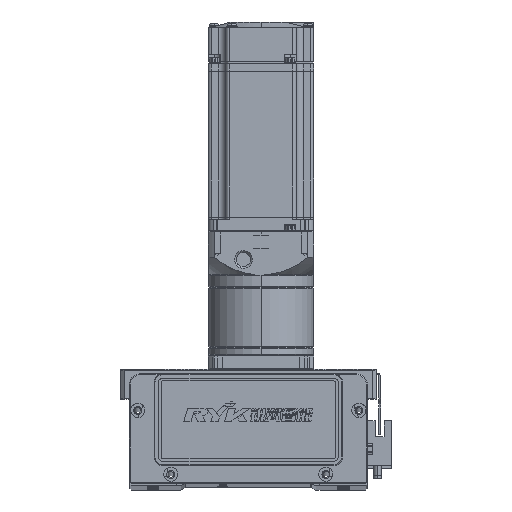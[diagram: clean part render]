
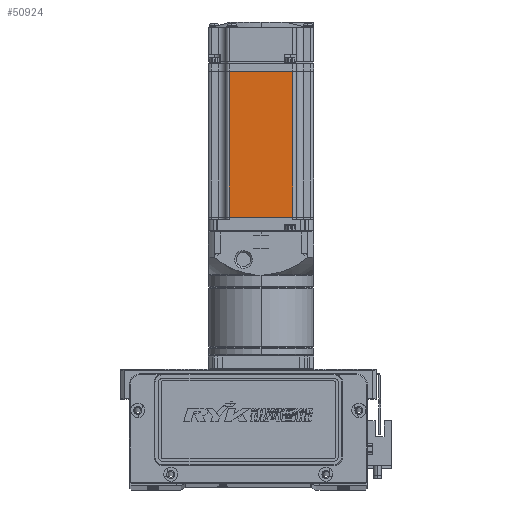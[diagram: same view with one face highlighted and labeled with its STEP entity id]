
A CAD part, top view. The second image highlights one B-rep face of the part: STEP entity #50924.
In plain terms, the highlighted planar face has unit normal (0, 0, 1).
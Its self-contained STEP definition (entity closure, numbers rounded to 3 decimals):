
#331 = VERTEX_POINT ( 'NONE', #10475 ) ;
#1261 = LINE ( 'NONE', #28120, #61692 ) ;
#4362 = AXIS2_PLACEMENT_3D ( 'NONE', #60997, #26026, #66859 ) ;
#9324 = DIRECTION ( 'NONE',  ( -1., 0., 0. ) ) ;
#9991 = DIRECTION ( 'NONE',  ( -1., 0., 0. ) ) ;
#10475 = CARTESIAN_POINT ( 'NONE',  ( -90.45, 18., 30. ) ) ;
#15568 = ORIENTED_EDGE ( 'NONE', *, *, #53115, .T. ) ;
#17392 = LINE ( 'NONE', #44203, #42946 ) ;
#25118 = CARTESIAN_POINT ( 'NONE',  ( -7.75, -18., 30. ) ) ;
#25939 = CARTESIAN_POINT ( 'NONE',  ( -90.45, -18., 30. ) ) ;
#26026 = DIRECTION ( 'NONE',  ( 0., 0., 1. ) ) ;
#26822 = LINE ( 'NONE', #55532, #33263 ) ;
#28120 = CARTESIAN_POINT ( 'NONE',  ( -6.5, -18., 30. ) ) ;
#33263 = VECTOR ( 'NONE', #9324, 1000. ) ;
#33961 = CARTESIAN_POINT ( 'NONE',  ( -7.75, 18., 30. ) ) ;
#35091 = LINE ( 'NONE', #48576, #72509 ) ;
#36220 = DIRECTION ( 'NONE',  ( 0., -1., 0. ) ) ;
#37587 = FACE_OUTER_BOUND ( 'NONE', #74146, .T. ) ;
#37645 = ORIENTED_EDGE ( 'NONE', *, *, #57790, .T. ) ;
#37784 = PLANE ( 'NONE',  #4362 ) ;
#38868 = DIRECTION ( 'NONE',  ( 0., -1., 0. ) ) ;
#42946 = VECTOR ( 'NONE', #38868, 1000. ) ;
#44203 = CARTESIAN_POINT ( 'NONE',  ( -90.45, 0., 30. ) ) ;
#48576 = CARTESIAN_POINT ( 'NONE',  ( -7.75, 0., 30. ) ) ;
#50924 = ADVANCED_FACE ( 'NONE', ( #37587 ), #37784, .T. ) ;
#51447 = VERTEX_POINT ( 'NONE', #25939 ) ;
#53115 = EDGE_CURVE ( 'NONE', #331, #51447, #17392, .T. ) ;
#55317 = VERTEX_POINT ( 'NONE', #33961 ) ;
#55532 = CARTESIAN_POINT ( 'NONE',  ( -6.5, 18., 30. ) ) ;
#56314 = ORIENTED_EDGE ( 'NONE', *, *, #57660, .F. ) ;
#57660 = EDGE_CURVE ( 'NONE', #55317, #59914, #35091, .T. ) ;
#57790 = EDGE_CURVE ( 'NONE', #55317, #331, #26822, .T. ) ;
#59914 = VERTEX_POINT ( 'NONE', #25118 ) ;
#60997 = CARTESIAN_POINT ( 'NONE',  ( -6.5, -25., 30. ) ) ;
#61692 = VECTOR ( 'NONE', #9991, 1000. ) ;
#64217 = ORIENTED_EDGE ( 'NONE', *, *, #69691, .F. ) ;
#66859 = DIRECTION ( 'NONE',  ( 1., 0., 0. ) ) ;
#69691 = EDGE_CURVE ( 'NONE', #59914, #51447, #1261, .T. ) ;
#72509 = VECTOR ( 'NONE', #36220, 1000. ) ;
#74146 = EDGE_LOOP ( 'NONE', ( #56314, #37645, #15568, #64217 ) ) ;
